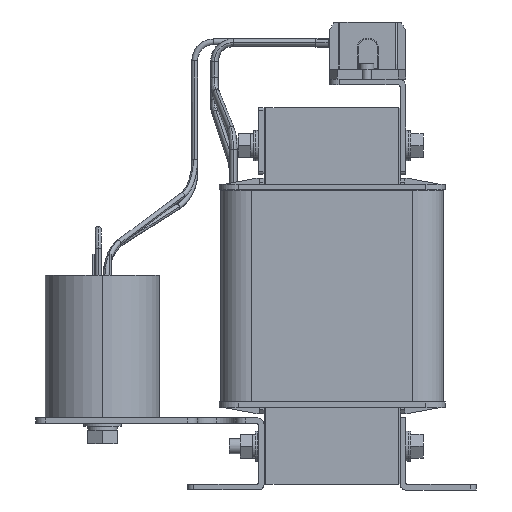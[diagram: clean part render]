
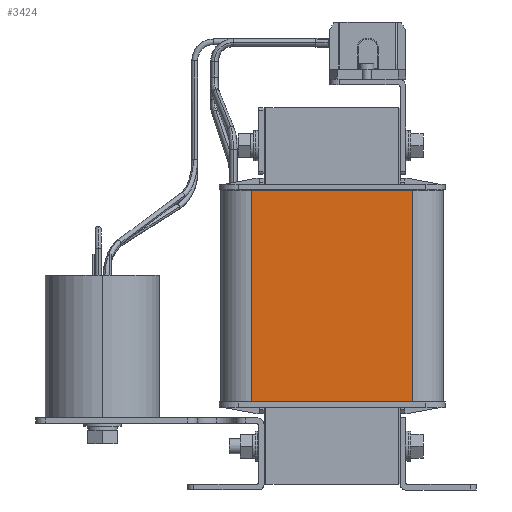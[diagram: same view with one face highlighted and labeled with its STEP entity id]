
A CAD part, left-side view. The second image highlights one B-rep face of the part: STEP entity #3424.
In plain terms, the highlighted planar face has unit normal (-1, 0, 0).
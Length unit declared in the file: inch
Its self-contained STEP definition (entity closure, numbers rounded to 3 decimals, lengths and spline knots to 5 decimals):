
#2781 = CARTESIAN_POINT ( 'NONE',  ( -4.69094, 49.04527, 1.83072 ) ) ;
#3424 = ADVANCED_FACE ( 'NONE', ( #19178 ), #63289, .T. ) ;
#5351 = CARTESIAN_POINT ( 'NONE',  ( -4.69094, 52.38386, 6.20079 ) ) ;
#8351 = CARTESIAN_POINT ( 'NONE',  ( -4.69094, 49.04527, 1.55512 ) ) ;
#13443 = EDGE_CURVE ( 'NONE', #52733, #84745, #71171, .T. ) ;
#14139 = CARTESIAN_POINT ( 'NONE',  ( -4.69094, 52.38386, 1.83072 ) ) ;
#17744 = EDGE_CURVE ( 'NONE', #84745, #33721, #26250, .T. ) ;
#19178 = FACE_OUTER_BOUND ( 'NONE', #71381, .T. ) ;
#20201 = EDGE_CURVE ( 'NONE', #85250, #52733, #24280, .T. ) ;
#21017 = LINE ( 'NONE', #50567, #59366 ) ;
#24280 = LINE ( 'NONE', #8351, #62440 ) ;
#26250 = LINE ( 'NONE', #48977, #57037 ) ;
#32037 = DIRECTION ( 'NONE',  ( 0., 0., 1. ) ) ;
#32715 = VECTOR ( 'NONE', #91465, 39.37008 ) ;
#33721 = VERTEX_POINT ( 'NONE', #14139 ) ;
#34291 = ORIENTED_EDGE ( 'NONE', *, *, #94346, .T. ) ;
#35797 = ORIENTED_EDGE ( 'NONE', *, *, #20201, .T. ) ;
#36053 = CARTESIAN_POINT ( 'NONE',  ( -4.69094, 49.04527, 6.20079 ) ) ;
#48977 = CARTESIAN_POINT ( 'NONE',  ( -4.69094, 52.38386, 1.55512 ) ) ;
#50567 = CARTESIAN_POINT ( 'NONE',  ( -4.69094, 52.38386, 1.83072 ) ) ;
#52733 = VERTEX_POINT ( 'NONE', #36053 ) ;
#57037 = VECTOR ( 'NONE', #57222, 39.37008 ) ;
#57222 = DIRECTION ( 'NONE',  ( 0., 0., -1. ) ) ;
#58545 = AXIS2_PLACEMENT_3D ( 'NONE', #92760, #93709, #79214 ) ;
#59366 = VECTOR ( 'NONE', #80095, 39.37008 ) ;
#62440 = VECTOR ( 'NONE', #32037, 39.37008 ) ;
#63289 = PLANE ( 'NONE',  #58545 ) ;
#71171 = LINE ( 'NONE', #5351, #32715 ) ;
#71381 = EDGE_LOOP ( 'NONE', ( #74002, #87049, #34291, #35797 ) ) ;
#74002 = ORIENTED_EDGE ( 'NONE', *, *, #13443, .T. ) ;
#79214 = DIRECTION ( 'NONE',  ( 0., 0., 1. ) ) ;
#80095 = DIRECTION ( 'NONE',  ( 0., -1., 0. ) ) ;
#84745 = VERTEX_POINT ( 'NONE', #85570 ) ;
#85250 = VERTEX_POINT ( 'NONE', #2781 ) ;
#85570 = CARTESIAN_POINT ( 'NONE',  ( -4.69094, 52.38386, 6.20079 ) ) ;
#87049 = ORIENTED_EDGE ( 'NONE', *, *, #17744, .T. ) ;
#91465 = DIRECTION ( 'NONE',  ( 0., 1., 0. ) ) ;
#92760 = CARTESIAN_POINT ( 'NONE',  ( -4.69094, 52.38386, 1.55512 ) ) ;
#93709 = DIRECTION ( 'NONE',  ( -1., 0., 0. ) ) ;
#94346 = EDGE_CURVE ( 'NONE', #33721, #85250, #21017, .T. ) ;
